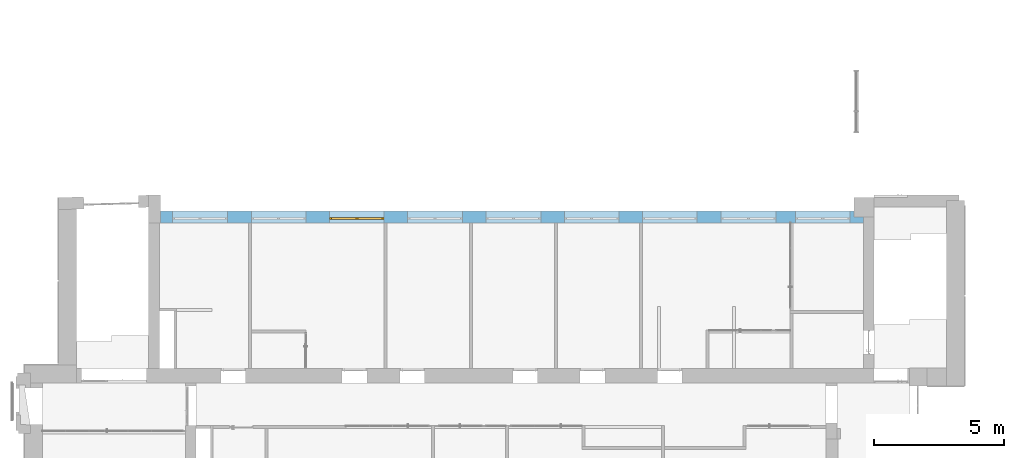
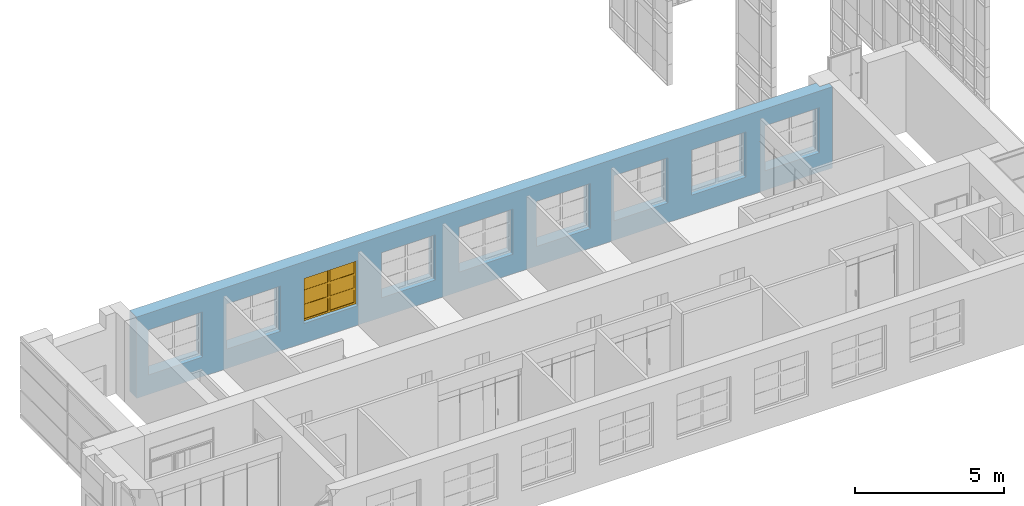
# One storey, part 61 of 73: 1 window, 9 openings, plus 1 element that does not belong to this part.
"""IFC2X3 building model written with IfcOpenShell, lengths in millimetres."""

from ifc_helpers import new_model, entity, si_unit, converted_unit, derived_unit, direction, frame, frame_2d, origin, origin_2d_with_axis, place, context, subcontext, project, spatial, polyline, rectangle, outline, extrude, face_set, surface_model, source, transform, mapped, material, material_list, layer, layer_set, layer_usage, type_object, type_shapes, element, fill, save


model = new_model("IFC2X3")

# Units and contexts
model_context = context("Model", 3, precision=0.01, world=origin(), true_north=direction((6.12303176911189e-17, 1.0)))
body_context = subcontext(model_context, "Body", "Model", "MODEL_VIEW")
ifc_project = project(units=[si_unit("LENGTHUNIT", "METRE", prefix="MILLI"), si_unit("AREAUNIT", "SQUARE_METRE"), si_unit("VOLUMEUNIT", "CUBIC_METRE"), converted_unit("PLANEANGLEUNIT", "DEGREE", entity("IfcRatioMeasure", 0.0174532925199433), si_unit("PLANEANGLEUNIT", "RADIAN"), dimensions=[0, 0, 0, 0, 0, 0, 0]), si_unit("MASSUNIT", "GRAM", prefix="KILO"), derived_unit("MASSDENSITYUNIT", [(si_unit("MASSUNIT", "GRAM", prefix="KILO"), 1), (si_unit("LENGTHUNIT", "METRE"), -3)]), si_unit("TIMEUNIT", "SECOND"), si_unit("FREQUENCYUNIT", "HERTZ"), si_unit("THERMODYNAMICTEMPERATUREUNIT", "DEGREE_CELSIUS"), derived_unit("THERMALTRANSMITTANCEUNIT", [(si_unit("MASSUNIT", "GRAM", prefix="KILO"), 1), (si_unit("THERMODYNAMICTEMPERATUREUNIT", "KELVIN"), -1), (si_unit("TIMEUNIT", "SECOND"), -3)]), derived_unit("VOLUMETRICFLOWRATEUNIT", [(si_unit("LENGTHUNIT", "METRE"), 3), (si_unit("TIMEUNIT", "SECOND"), -1)]), si_unit("ELECTRICCURRENTUNIT", "AMPERE"), si_unit("ELECTRICVOLTAGEUNIT", "VOLT"), si_unit("POWERUNIT", "WATT"), si_unit("FORCEUNIT", "NEWTON", prefix="KILO"), si_unit("ILLUMINANCEUNIT", "LUX"), si_unit("LUMINOUSFLUXUNIT", "LUMEN"), si_unit("LUMINOUSINTENSITYUNIT", "CANDELA"), derived_unit("USERDEFINED", [(si_unit("MASSUNIT", "GRAM", prefix="KILO"), -1), (si_unit("LENGTHUNIT", "METRE"), -2), (si_unit("TIMEUNIT", "SECOND"), 3), (si_unit("LUMINOUSFLUXUNIT", "LUMEN"), 1)]), derived_unit("LINEARVELOCITYUNIT", [(si_unit("LENGTHUNIT", "METRE"), 1), (si_unit("TIMEUNIT", "SECOND"), -1)]), si_unit("PRESSUREUNIT", "PASCAL"), derived_unit("USERDEFINED", [(si_unit("LENGTHUNIT", "METRE"), -2), (si_unit("MASSUNIT", "GRAM", prefix="KILO"), 1), (si_unit("TIMEUNIT", "SECOND"), -2)])], contexts=[model_context])

# Site, building, storey
site_placement = place(None, frame((-151.875543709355, 2715.0, 0.0)))
site = spatial("IfcSite", under=ifc_project, at=site_placement, Name="Surface", CompositionType="ELEMENT")
building_placement = place(site_placement, origin())
building = spatial("IfcBuilding", under=site, at=building_placement, CompositionType="ELEMENT")
storey_placement = place(building_placement, frame((0.0, 0.0, 6730.43000000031)))
storey = spatial("IfcBuildingStorey", under=building, at=storey_placement, Name="3 korrus", CompositionType="ELEMENT", Elevation=6730.43000000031)

# Wall, openings, window
ifc_material_1 = material(Name="Brick, Common")
ifc_layer_1 = layer(ifc_material_1, 440.0)
ifc_material_2 = material(Name="__Kips GN13_tava")
ifc_layer_2 = layer(ifc_material_2, 20.0)
ifc_layer_set = layer_set([ifc_layer_1, ifc_layer_2], Name="Basic Wall:VS-1")
ifc_layer_usage = layer_usage(ifc_layer_set, "AXIS2", "POSITIVE", -230.0)
wall_type = type_object("IfcWallType", Name="Basic Wall:VS-1", PredefinedType="STANDARD", material=ifc_layer_set)
wall_placement = place(storey_placement, frame((31972.6162682, 12380.0, 0.00203353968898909), z_axis=(0.0, 0.0, 1.0), x_axis=(-1.0, 0.0, 0.0)))
wall = element("IfcWallStandardCase", 1, at=wall_placement, inside=storey, type_object=wall_type, material=ifc_layer_usage, Name="SEIN - 005", ObjectType="Basic Wall:VS-1", context=body_context, shape_type="SweptSolid", body=[
    extrude(outline(polyline([(26972.5418693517, -230.0), (26972.5418693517, 230.0), (0.0, 230.0), (0.0, 0.0), (370.0, 0.0), (370.0, -230.0), (26972.5418693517, -230.0)])), origin(), (0.0, 0.0, 1.0), 3329.56796646),
])
opening_1_placement = place(wall_placement, frame((31972.6162682, 12380.0, -0.00203353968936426), z_axis=(0.0, 0.0, 1.0), x_axis=(-1.0, 0.0, 0.0)))
element("IfcOpeningElement", 2, at=opening_1_placement, cuts=wall, Name="SEIN - 005", ObjectType="Opening", context=body_context, shape_type="SweptSolid", body=[
    extrude(rectangle(XDim=1850.0, YDim=2100.0, at=frame_2d((0.0, -5.6843418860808e-13), x_axis=(1.0, 0.0))), frame((6512.84934801, 13077.9, 1725.00203353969), z_axis=(0.0, -1.0, 0.0), x_axis=(0.0, 0.0, 1.0)), (0.0, 0.0, 1.0), 1393.8),
])
opening_2_placement = place(wall_placement, frame((31972.6162682, 12380.0, -0.00203353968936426), z_axis=(0.0, 0.0, 1.0), x_axis=(-1.0, 0.0, 0.0)))
element("IfcOpeningElement", 3, at=opening_2_placement, cuts=wall, Name="SEIN - 005", ObjectType="Opening", context=body_context, shape_type="SweptSolid", body=[
    extrude(rectangle(XDim=1850.0, YDim=2100.0, at=origin_2d_with_axis()), frame((9532.84934801, 13077.9, 1725.00203353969), z_axis=(0.0, -1.0, 0.0), x_axis=(0.0, 0.0, 1.0)), (0.0, 0.0, 1.0), 1393.8),
])
opening_3_placement = place(wall_placement, frame((31972.6162682, 12380.0, -0.00203353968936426), z_axis=(0.0, 0.0, 1.0), x_axis=(-1.0, 0.0, 0.0)))
opening_3 = element("IfcOpeningElement", 4, at=opening_3_placement, cuts=wall, Name="SEIN - 005", ObjectType="Opening", context=body_context, shape_type="SweptSolid", body=[
    extrude(rectangle(XDim=1850.0, YDim=2100.0, at=frame_2d((0.0, -1.02318153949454e-12), x_axis=(1.0, 0.0))), frame((12532.84934801, 13077.9, 1725.00203353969), z_axis=(0.0, -1.0, 0.0), x_axis=(0.0, 0.0, 1.0)), (0.0, 0.0, 1.0), 1393.8),
])
opening_4_placement = place(wall_placement, frame((31972.6162682, 12380.0, -0.00203353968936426), z_axis=(0.0, 0.0, 1.0), x_axis=(-1.0, 0.0, 0.0)))
element("IfcOpeningElement", 5, at=opening_4_placement, cuts=wall, Name="SEIN - 005", ObjectType="Opening", context=body_context, shape_type="SweptSolid", body=[
    extrude(rectangle(XDim=1850.0, YDim=2100.0, at=origin_2d_with_axis()), frame((15532.849348, 13077.9, 1725.00203353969), z_axis=(0.0, -1.0, 0.0), x_axis=(0.0, 0.0, 1.0)), (0.0, 0.0, 1.0), 1393.8),
])
opening_5_placement = place(wall_placement, frame((31972.6162682, 12380.0, -0.00203353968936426), z_axis=(0.0, 0.0, 1.0), x_axis=(-1.0, 0.0, 0.0)))
element("IfcOpeningElement", 6, at=opening_5_placement, cuts=wall, Name="SEIN - 005", ObjectType="Opening", context=body_context, shape_type="SweptSolid", body=[
    extrude(rectangle(XDim=1850.0, YDim=2100.0, at=origin_2d_with_axis()), frame((18542.849348, 13077.9, 1725.00203353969), z_axis=(0.0, -1.0, 0.0), x_axis=(0.0, 0.0, 1.0)), (0.0, 0.0, 1.0), 1393.8),
])
opening_6_placement = place(wall_placement, frame((31972.6162682, 12380.0, -0.00203353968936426), z_axis=(0.0, 0.0, 1.0), x_axis=(-1.0, 0.0, 0.0)))
element("IfcOpeningElement", 7, at=opening_6_placement, cuts=wall, Name="SEIN - 005", ObjectType="Opening", context=body_context, shape_type="SweptSolid", body=[
    extrude(rectangle(XDim=1850.0, YDim=2100.0, at=origin_2d_with_axis()), frame((21543.0530903, 13077.9, 1725.00203353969), z_axis=(0.0, -1.0, 0.0), x_axis=(0.0, 0.0, 1.0)), (0.0, 0.0, 1.0), 1393.8),
])
opening_7_placement = place(wall_placement, frame((31972.6162682, 12380.0, -0.00203353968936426), z_axis=(0.0, 0.0, 1.0), x_axis=(-1.0, 0.0, 0.0)))
element("IfcOpeningElement", 8, at=opening_7_placement, cuts=wall, Name="SEIN - 005", ObjectType="Opening", context=body_context, shape_type="SweptSolid", body=[
    extrude(rectangle(XDim=1850.0, YDim=2100.0, at=origin_2d_with_axis()), frame((24543.0530903, 13077.9, 1725.00203353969), z_axis=(0.0, -1.0, 0.0), x_axis=(0.0, 0.0, 1.0)), (0.0, 0.0, 1.0), 1393.8),
])
opening_8_placement = place(wall_placement, frame((31972.6162682, 12380.0, -0.00203353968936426), z_axis=(0.0, 0.0, 1.0), x_axis=(-1.0, 0.0, 0.0)))
element("IfcOpeningElement", 9, at=opening_8_placement, cuts=wall, Name="SEIN - 005", ObjectType="Opening", context=body_context, shape_type="SweptSolid", body=[
    extrude(rectangle(XDim=1850.0, YDim=2100.0, at=origin_2d_with_axis()), frame((27563.0530903, 13077.9, 1725.00203353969), z_axis=(0.0, -1.0, 0.0), x_axis=(0.0, 0.0, 1.0)), (0.0, 0.0, 1.0), 1393.8),
])
opening_9_placement = place(wall_placement, frame((31972.6162682, 12380.0, -0.00203353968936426), z_axis=(0.0, 0.0, 1.0), x_axis=(-1.0, 0.0, 0.0)))
element("IfcOpeningElement", 10, at=opening_9_placement, cuts=wall, Name="SEIN - 005", ObjectType="Opening", context=body_context, shape_type="SweptSolid", body=[
    extrude(rectangle(XDim=1850.0, YDim=2100.0, at=origin_2d_with_axis()), frame((30412.5729235, 13077.9, 1725.00203353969), z_axis=(0.0, -1.0, 0.0), x_axis=(0.0, 0.0, 1.0)), (0.0, 0.0, 1.0), 1393.8),
])
ifc_material_3 = material(Name="Paint - Titanium White")
ifc_material_4 = material(Name="Paint - Dark Gray")
ifc_material_5 = material(Name="Glass - Clear Fast")
ifc_material_list_1 = material_list([ifc_material_3, ifc_material_4, ifc_material_5])
ifc_material_list_2 = material_list([ifc_material_3, ifc_material_4, ifc_material_5])
window_style = type_object("IfcWindowStyle", Name="Aken_1850x2100", ConstructionType="NOTDEFINED", OperationType="DOUBLE_PANEL_VERTICAL", ParameterTakesPrecedence=False, Sizeable=False, material=ifc_material_list_2)
shared_shape = source(origin(), body_context, "Body", "SurfaceModel", [
    surface_model("IfcFaceBasedSurfaceModel", [(80.0, -665.9, 1770.0), (80.0, -620.9, 1770.0), (0.0, -620.9, 1770.0), (0.0, -665.9, 1770.0), (80.0, -665.9, 80.0), (80.0, -620.9, 80.0), (80.0, -620.9, 1770.0), (80.0, -665.9, 1770.0), (80.0, -620.9, 1770.0), (80.0, -620.9, 80.0), (0.0, -620.9, 80.0), (0.0, -620.9, 1770.0), (0.0, -665.9, 1770.0), (0.0, -620.9, 1770.0), (0.0, -620.9, 80.0), (0.0, -665.9, 80.0), (80.0, -665.9, 1770.0), (0.0, -665.9, 1770.0), (0.0, -665.9, 80.0), (80.0, -665.9, 80.0), (0.0, -665.9, 80.0), (0.0, -620.9, 80.0), (80.0, -620.9, 80.0), (80.0, -665.9, 80.0), (2020.0, -665.9, 80.0), (2020.0, -620.9, 80.0), (2100.0, -620.9, 80.0), (2100.0, -665.9, 80.0), (2020.0, -665.9, 1770.0), (2020.0, -620.9, 1770.0), (2020.0, -620.9, 80.0), (2020.0, -665.9, 80.0), (2020.0, -620.9, 80.0), (2020.0, -620.9, 1770.0), (2100.0, -620.9, 1770.0), (2100.0, -620.9, 80.0), (2100.0, -665.9, 80.0), (2100.0, -620.9, 80.0), (2100.0, -620.9, 1770.0), (2100.0, -665.9, 1770.0), (2020.0, -665.9, 80.0), (2100.0, -665.9, 80.0), (2100.0, -665.9, 1770.0), (2020.0, -665.9, 1770.0), (2100.0, -665.9, 1770.0), (2100.0, -620.9, 1770.0), (2020.0, -620.9, 1770.0), (2020.0, -665.9, 1770.0), (1010.0, -665.9, 80.0), (1010.0, -620.9, 80.0), (1090.0, -620.9, 80.0), (1090.0, -665.9, 80.0), (1010.0, -665.9, 1770.0), (1010.0, -620.9, 1770.0), (1010.0, -620.9, 80.0), (1010.0, -665.9, 80.0), (1010.0, -620.9, 80.0), (1010.0, -620.9, 1770.0), (1090.0, -620.9, 1770.0), (1090.0, -620.9, 80.0), (1090.0, -665.9, 80.0), (1090.0, -620.9, 80.0), (1090.0, -620.9, 1770.0), (1090.0, -665.9, 1770.0), (1010.0, -665.9, 80.0), (1090.0, -665.9, 80.0), (1090.0, -665.9, 1770.0), (1010.0, -665.9, 1770.0), (1090.0, -665.9, 1770.0), (1090.0, -620.9, 1770.0), (1010.0, -620.9, 1770.0), (1010.0, -665.9, 1770.0), (80.0, -665.9, 80.0), (80.0, -620.9, 80.0), (0.0, -620.9, 80.0), (0.0, -665.9, 80.0), (1010.0, -665.9, 80.0), (1010.0, -620.9, 80.0), (80.0, -620.9, 80.0), (80.0, -665.9, 80.0), (80.0, -620.9, 80.0), (1010.0, -620.9, 80.0), (1090.0, -620.9, 80.0), (2020.0, -620.9, 80.0), (2100.0, -620.9, 80.0), (2100.0, -620.9, 0.0), (0.0, -620.9, 0.0), (0.0, -620.9, 80.0), (0.0, -665.9, 80.0), (0.0, -620.9, 80.0), (0.0, -620.9, 0.0), (0.0, -665.9, 0.0), (80.0, -665.9, 80.0), (0.0, -665.9, 80.0), (0.0, -665.9, 0.0), (2100.0, -665.9, 0.0), (2100.0, -665.9, 80.0), (2020.0, -665.9, 80.0), (1090.0, -665.9, 80.0), (1010.0, -665.9, 80.0), (1090.0, -665.9, 80.0), (1090.0, -620.9, 80.0), (1010.0, -620.9, 80.0), (1010.0, -665.9, 80.0), (2020.0, -665.9, 80.0), (2020.0, -620.9, 80.0), (1090.0, -620.9, 80.0), (1090.0, -665.9, 80.0), (2100.0, -665.9, 80.0), (2100.0, -620.9, 80.0), (2020.0, -620.9, 80.0), (2020.0, -665.9, 80.0), (2100.0, -665.9, 0.0), (2100.0, -620.9, 0.0), (2100.0, -620.9, 80.0), (2100.0, -665.9, 80.0), (0.0, -665.9, 0.0), (0.0, -620.9, 0.0), (2100.0, -620.9, 0.0), (2100.0, -665.9, 0.0), (1010.0, -665.9, 1770.0), (1010.0, -620.9, 1770.0), (1090.0, -620.9, 1770.0), (1090.0, -665.9, 1770.0), (80.0, -665.9, 1770.0), (80.0, -620.9, 1770.0), (1010.0, -620.9, 1770.0), (1010.0, -665.9, 1770.0), (1010.0, -620.9, 1770.0), (80.0, -620.9, 1770.0), (0.0, -620.9, 1770.0), (0.0, -620.9, 1850.0), (2100.0, -620.9, 1850.0), (2100.0, -620.9, 1770.0), (2020.0, -620.9, 1770.0), (1090.0, -620.9, 1770.0), (1090.0, -665.9, 1770.0), (1090.0, -620.9, 1770.0), (2020.0, -620.9, 1770.0), (2020.0, -665.9, 1770.0), (1010.0, -665.9, 1770.0), (1090.0, -665.9, 1770.0), (2020.0, -665.9, 1770.0), (2100.0, -665.9, 1770.0), (2100.0, -665.9, 1850.0), (0.0, -665.9, 1850.0), (0.0, -665.9, 1770.0), (80.0, -665.9, 1770.0), (0.0, -665.9, 1770.0), (0.0, -620.9, 1770.0), (80.0, -620.9, 1770.0), (80.0, -665.9, 1770.0), (0.0, -665.9, 1850.0), (0.0, -620.9, 1850.0), (0.0, -620.9, 1770.0), (0.0, -665.9, 1770.0), (2100.0, -665.9, 1850.0), (2100.0, -620.9, 1850.0), (0.0, -620.9, 1850.0), (0.0, -665.9, 1850.0), (2100.0, -665.9, 1770.0), (2100.0, -620.9, 1770.0), (2100.0, -620.9, 1850.0), (2100.0, -665.9, 1850.0), (2020.0, -665.9, 1770.0), (2020.0, -620.9, 1770.0), (2100.0, -620.9, 1770.0), (2100.0, -665.9, 1770.0), (80.0, -640.9, 590.0), (80.0, -630.9, 590.0), (1010.0, -630.9, 590.0), (1010.0, -640.9, 590.0), (80.0, -640.9, 670.0), (80.0, -630.9, 670.0), (80.0, -630.9, 590.0), (80.0, -640.9, 590.0), (80.0, -630.9, 590.0), (80.0, -630.9, 670.0), (1010.0, -630.9, 670.0), (1010.0, -630.9, 590.0), (1010.0, -640.9, 590.0), (1010.0, -630.9, 590.0), (1010.0, -630.9, 670.0), (1010.0, -640.9, 670.0), (80.0, -640.9, 590.0), (1010.0, -640.9, 590.0), (1010.0, -640.9, 670.0), (80.0, -640.9, 670.0), (1010.0, -640.9, 670.0), (1010.0, -630.9, 670.0), (80.0, -630.9, 670.0), (80.0, -640.9, 670.0), (80.0, -640.9, 1180.0), (80.0, -630.9, 1180.0), (1010.0, -630.9, 1180.0), (1010.0, -640.9, 1180.0), (80.0, -640.9, 1260.0), (80.0, -630.9, 1260.0), (80.0, -630.9, 1180.0), (80.0, -640.9, 1180.0), (80.0, -630.9, 1180.0), (80.0, -630.9, 1260.0), (1010.0, -630.9, 1260.0), (1010.0, -630.9, 1180.0), (1010.0, -640.9, 1180.0), (1010.0, -630.9, 1180.0), (1010.0, -630.9, 1260.0), (1010.0, -640.9, 1260.0), (80.0, -640.9, 1180.0), (1010.0, -640.9, 1180.0), (1010.0, -640.9, 1260.0), (80.0, -640.9, 1260.0), (1010.0, -640.9, 1260.0), (1010.0, -630.9, 1260.0), (80.0, -630.9, 1260.0), (80.0, -640.9, 1260.0), (1090.0, -640.9, 590.0), (1090.0, -630.9, 590.0), (2020.0, -630.9, 590.0), (2020.0, -640.9, 590.0), (1090.0, -640.9, 670.0), (1090.0, -630.9, 670.0), (1090.0, -630.9, 590.0), (1090.0, -640.9, 590.0), (1090.0, -630.9, 590.0), (1090.0, -630.9, 670.0), (2020.0, -630.9, 670.0), (2020.0, -630.9, 590.0), (2020.0, -640.9, 590.0), (2020.0, -630.9, 590.0), (2020.0, -630.9, 670.0), (2020.0, -640.9, 670.0), (1090.0, -640.9, 590.0), (2020.0, -640.9, 590.0), (2020.0, -640.9, 670.0), (1090.0, -640.9, 670.0), (2020.0, -640.9, 670.0), (2020.0, -630.9, 670.0), (1090.0, -630.9, 670.0), (1090.0, -640.9, 670.0), (1090.0, -640.9, 1180.0), (1090.0, -630.9, 1180.0), (2020.0, -630.9, 1180.0), (2020.0, -640.9, 1180.0), (1090.0, -640.9, 1260.0), (1090.0, -630.9, 1260.0), (1090.0, -630.9, 1180.0), (1090.0, -640.9, 1180.0), (1090.0, -630.9, 1180.0), (1090.0, -630.9, 1260.0), (2020.0, -630.9, 1260.0), (2020.0, -630.9, 1180.0), (2020.0, -640.9, 1180.0), (2020.0, -630.9, 1180.0), (2020.0, -630.9, 1260.0), (2020.0, -640.9, 1260.0), (1090.0, -640.9, 1180.0), (2020.0, -640.9, 1180.0), (2020.0, -640.9, 1260.0), (1090.0, -640.9, 1260.0), (2020.0, -640.9, 1260.0), (2020.0, -630.9, 1260.0), (1090.0, -630.9, 1260.0), (1090.0, -640.9, 1260.0)], [face_set([[[0, 1, 2, 3]]]), face_set([[[4, 5, 6, 7]]]), face_set([[[8, 9, 10, 11]]]), face_set([[[12, 13, 14, 15]]]), face_set([[[16, 17, 18, 19]]]), face_set([[[20, 21, 22, 23]]]), face_set([[[24, 25, 26, 27]]]), face_set([[[28, 29, 30, 31]]]), face_set([[[32, 33, 34, 35]]]), face_set([[[36, 37, 38, 39]]]), face_set([[[40, 41, 42, 43]]]), face_set([[[44, 45, 46, 47]]]), face_set([[[48, 49, 50, 51]]]), face_set([[[52, 53, 54, 55]]]), face_set([[[56, 57, 58, 59]]]), face_set([[[60, 61, 62, 63]]]), face_set([[[64, 65, 66, 67]]]), face_set([[[68, 69, 70, 71]]]), face_set([[[72, 73, 74, 75]]]), face_set([[[76, 77, 78, 79]]]), face_set([[[80, 81, 82, 83, 84, 85, 86, 87]]]), face_set([[[88, 89, 90, 91]]]), face_set([[[92, 93, 94, 95, 96, 97, 98, 99]]]), face_set([[[100, 101, 102, 103]]]), face_set([[[104, 105, 106, 107]]]), face_set([[[108, 109, 110, 111]]]), face_set([[[112, 113, 114, 115]]]), face_set([[[116, 117, 118, 119]]]), face_set([[[120, 121, 122, 123]]]), face_set([[[124, 125, 126, 127]]]), face_set([[[128, 129, 130, 131, 132, 133, 134, 135]]]), face_set([[[136, 137, 138, 139]]]), face_set([[[140, 141, 142, 143, 144, 145, 146, 147]]]), face_set([[[148, 149, 150, 151]]]), face_set([[[152, 153, 154, 155]]]), face_set([[[156, 157, 158, 159]]]), face_set([[[160, 161, 162, 163]]]), face_set([[[164, 165, 166, 167]]]), face_set([[[168, 169, 170, 171]]]), face_set([[[172, 173, 174, 175]]]), face_set([[[176, 177, 178, 179]]]), face_set([[[180, 181, 182, 183]]]), face_set([[[184, 185, 186, 187]]]), face_set([[[188, 189, 190, 191]]]), face_set([[[192, 193, 194, 195]]]), face_set([[[196, 197, 198, 199]]]), face_set([[[200, 201, 202, 203]]]), face_set([[[204, 205, 206, 207]]]), face_set([[[208, 209, 210, 211]]]), face_set([[[212, 213, 214, 215]]]), face_set([[[216, 217, 218, 219]]]), face_set([[[220, 221, 222, 223]]]), face_set([[[224, 225, 226, 227]]]), face_set([[[228, 229, 230, 231]]]), face_set([[[232, 233, 234, 235]]]), face_set([[[236, 237, 238, 239]]]), face_set([[[240, 241, 242, 243]]]), face_set([[[244, 245, 246, 247]]]), face_set([[[248, 249, 250, 251]]]), face_set([[[252, 253, 254, 255]]]), face_set([[[256, 257, 258, 259]]]), face_set([[[260, 261, 262, 263]]])]),
    surface_model("IfcFaceBasedSurfaceModel", [(80.0, -620.9, 1770.0), (80.0, -595.9, 1770.0), (0.0, -595.9, 1770.0), (0.0, -620.9, 1770.0), (80.0, -620.9, 80.0), (80.0, -595.9, 80.0), (80.0, -595.9, 1770.0), (80.0, -620.9, 1770.0), (80.0, -595.9, 1770.0), (80.0, -595.9, 80.0), (0.0, -595.9, 80.0), (0.0, -595.9, 1770.0), (0.0, -620.9, 1770.0), (0.0, -595.9, 1770.0), (0.0, -595.9, 80.0), (0.0, -620.9, 80.0), (80.0, -620.9, 1770.0), (0.0, -620.9, 1770.0), (0.0, -620.9, 80.0), (80.0, -620.9, 80.0), (0.0, -620.9, 80.0), (0.0, -595.9, 80.0), (80.0, -595.9, 80.0), (80.0, -620.9, 80.0), (2020.0, -620.9, 80.0), (2020.0, -595.9, 80.0), (2100.0, -595.9, 80.0), (2100.0, -620.9, 80.0), (2020.0, -620.9, 1770.0), (2020.0, -595.9, 1770.0), (2020.0, -595.9, 80.0), (2020.0, -620.9, 80.0), (2020.0, -595.9, 80.0), (2020.0, -595.9, 1770.0), (2100.0, -595.9, 1770.0), (2100.0, -595.9, 80.0), (2100.0, -620.9, 80.0), (2100.0, -595.9, 80.0), (2100.0, -595.9, 1770.0), (2100.0, -620.9, 1770.0), (2020.0, -620.9, 80.0), (2100.0, -620.9, 80.0), (2100.0, -620.9, 1770.0), (2020.0, -620.9, 1770.0), (2100.0, -620.9, 1770.0), (2100.0, -595.9, 1770.0), (2020.0, -595.9, 1770.0), (2020.0, -620.9, 1770.0), (1010.0, -620.9, 80.0), (1010.0, -595.9, 80.0), (1090.0, -595.9, 80.0), (1090.0, -620.9, 80.0), (1010.0, -620.9, 1770.0), (1010.0, -595.9, 1770.0), (1010.0, -595.9, 80.0), (1010.0, -620.9, 80.0), (1010.0, -595.9, 80.0), (1010.0, -595.9, 1770.0), (1090.0, -595.9, 1770.0), (1090.0, -595.9, 80.0), (1090.0, -620.9, 80.0), (1090.0, -595.9, 80.0), (1090.0, -595.9, 1770.0), (1090.0, -620.9, 1770.0), (1010.0, -620.9, 80.0), (1090.0, -620.9, 80.0), (1090.0, -620.9, 1770.0), (1010.0, -620.9, 1770.0), (1090.0, -620.9, 1770.0), (1090.0, -595.9, 1770.0), (1010.0, -595.9, 1770.0), (1010.0, -620.9, 1770.0), (80.0, -620.9, 80.0), (80.0, -595.9, 80.0), (0.0, -595.9, 80.0), (0.0, -620.9, 80.0), (1010.0, -620.9, 80.0), (1010.0, -595.9, 80.0), (80.0, -595.9, 80.0), (80.0, -620.9, 80.0), (80.0, -595.9, 80.0), (1010.0, -595.9, 80.0), (1090.0, -595.9, 80.0), (2020.0, -595.9, 80.0), (2100.0, -595.9, 80.0), (2100.0, -595.9, 0.0), (0.0, -595.9, 0.0), (0.0, -595.9, 80.0), (0.0, -620.9, 80.0), (0.0, -595.9, 80.0), (0.0, -595.9, 0.0), (0.0, -620.9, 0.0), (80.0, -620.9, 80.0), (0.0, -620.9, 80.0), (0.0, -620.9, 0.0), (2100.0, -620.9, 0.0), (2100.0, -620.9, 80.0), (2020.0, -620.9, 80.0), (1090.0, -620.9, 80.0), (1010.0, -620.9, 80.0), (1090.0, -620.9, 80.0), (1090.0, -595.9, 80.0), (1010.0, -595.9, 80.0), (1010.0, -620.9, 80.0), (2020.0, -620.9, 80.0), (2020.0, -595.9, 80.0), (1090.0, -595.9, 80.0), (1090.0, -620.9, 80.0), (2100.0, -620.9, 80.0), (2100.0, -595.9, 80.0), (2020.0, -595.9, 80.0), (2020.0, -620.9, 80.0), (2100.0, -620.9, 0.0), (2100.0, -595.9, 0.0), (2100.0, -595.9, 80.0), (2100.0, -620.9, 80.0), (0.0, -620.9, 0.0), (0.0, -595.9, 0.0), (2100.0, -595.9, 0.0), (2100.0, -620.9, 0.0), (1010.0, -620.9, 1770.0), (1010.0, -595.9, 1770.0), (1090.0, -595.9, 1770.0), (1090.0, -620.9, 1770.0), (80.0, -620.9, 1770.0), (80.0, -595.9, 1770.0), (1010.0, -595.9, 1770.0), (1010.0, -620.9, 1770.0), (1010.0, -595.9, 1770.0), (80.0, -595.9, 1770.0), (0.0, -595.9, 1770.0), (0.0, -595.9, 1850.0), (2100.0, -595.9, 1850.0), (2100.0, -595.9, 1770.0), (2020.0, -595.9, 1770.0), (1090.0, -595.9, 1770.0), (1090.0, -620.9, 1770.0), (1090.0, -595.9, 1770.0), (2020.0, -595.9, 1770.0), (2020.0, -620.9, 1770.0), (1010.0, -620.9, 1770.0), (1090.0, -620.9, 1770.0), (2020.0, -620.9, 1770.0), (2100.0, -620.9, 1770.0), (2100.0, -620.9, 1850.0), (0.0, -620.9, 1850.0), (0.0, -620.9, 1770.0), (80.0, -620.9, 1770.0), (0.0, -620.9, 1770.0), (0.0, -595.9, 1770.0), (80.0, -595.9, 1770.0), (80.0, -620.9, 1770.0), (0.0, -620.9, 1850.0), (0.0, -595.9, 1850.0), (0.0, -595.9, 1770.0), (0.0, -620.9, 1770.0), (2100.0, -620.9, 1850.0), (2100.0, -595.9, 1850.0), (0.0, -595.9, 1850.0), (0.0, -620.9, 1850.0), (2100.0, -620.9, 1770.0), (2100.0, -595.9, 1770.0), (2100.0, -595.9, 1850.0), (2100.0, -620.9, 1850.0), (2020.0, -620.9, 1770.0), (2020.0, -595.9, 1770.0), (2100.0, -595.9, 1770.0), (2100.0, -620.9, 1770.0), (80.0, -630.9, 590.0), (80.0, -600.9, 590.0), (1010.0, -600.9, 590.0), (1010.0, -630.9, 590.0), (80.0, -630.9, 670.0), (80.0, -600.9, 670.0), (80.0, -600.9, 590.0), (80.0, -630.9, 590.0), (80.0, -600.9, 590.0), (80.0, -600.9, 670.0), (1010.0, -600.9, 670.0), (1010.0, -600.9, 590.0), (1010.0, -630.9, 590.0), (1010.0, -600.9, 590.0), (1010.0, -600.9, 670.0), (1010.0, -630.9, 670.0), (80.0, -630.9, 590.0), (1010.0, -630.9, 590.0), (1010.0, -630.9, 670.0), (80.0, -630.9, 670.0), (1010.0, -630.9, 670.0), (1010.0, -600.9, 670.0), (80.0, -600.9, 670.0), (80.0, -630.9, 670.0), (80.0, -630.9, 1180.0), (80.0, -600.9, 1180.0), (1010.0, -600.9, 1180.0), (1010.0, -630.9, 1180.0), (80.0, -630.9, 1260.0), (80.0, -600.9, 1260.0), (80.0, -600.9, 1180.0), (80.0, -630.9, 1180.0), (80.0, -600.9, 1180.0), (80.0, -600.9, 1260.0), (1010.0, -600.9, 1260.0), (1010.0, -600.9, 1180.0), (1010.0, -630.9, 1180.0), (1010.0, -600.9, 1180.0), (1010.0, -600.9, 1260.0), (1010.0, -630.9, 1260.0), (80.0, -630.9, 1180.0), (1010.0, -630.9, 1180.0), (1010.0, -630.9, 1260.0), (80.0, -630.9, 1260.0), (1010.0, -630.9, 1260.0), (1010.0, -600.9, 1260.0), (80.0, -600.9, 1260.0), (80.0, -630.9, 1260.0), (1090.0, -630.9, 590.0), (1090.0, -600.9, 590.0), (2020.0, -600.9, 590.0), (2020.0, -630.9, 590.0), (1090.0, -630.9, 670.0), (1090.0, -600.9, 670.0), (1090.0, -600.9, 590.0), (1090.0, -630.9, 590.0), (1090.0, -600.9, 590.0), (1090.0, -600.9, 670.0), (2020.0, -600.9, 670.0), (2020.0, -600.9, 590.0), (2020.0, -630.9, 590.0), (2020.0, -600.9, 590.0), (2020.0, -600.9, 670.0), (2020.0, -630.9, 670.0), (1090.0, -630.9, 590.0), (2020.0, -630.9, 590.0), (2020.0, -630.9, 670.0), (1090.0, -630.9, 670.0), (2020.0, -630.9, 670.0), (2020.0, -600.9, 670.0), (1090.0, -600.9, 670.0), (1090.0, -630.9, 670.0), (1090.0, -630.9, 1180.0), (1090.0, -600.9, 1180.0), (2020.0, -600.9, 1180.0), (2020.0, -630.9, 1180.0), (1090.0, -630.9, 1260.0), (1090.0, -600.9, 1260.0), (1090.0, -600.9, 1180.0), (1090.0, -630.9, 1180.0), (1090.0, -600.9, 1180.0), (1090.0, -600.9, 1260.0), (2020.0, -600.9, 1260.0), (2020.0, -600.9, 1180.0), (2020.0, -630.9, 1180.0), (2020.0, -600.9, 1180.0), (2020.0, -600.9, 1260.0), (2020.0, -630.9, 1260.0), (1090.0, -630.9, 1180.0), (2020.0, -630.9, 1180.0), (2020.0, -630.9, 1260.0), (1090.0, -630.9, 1260.0), (2020.0, -630.9, 1260.0), (2020.0, -600.9, 1260.0), (1090.0, -600.9, 1260.0), (1090.0, -630.9, 1260.0)], [face_set([[[0, 1, 2, 3]]]), face_set([[[4, 5, 6, 7]]]), face_set([[[8, 9, 10, 11]]]), face_set([[[12, 13, 14, 15]]]), face_set([[[16, 17, 18, 19]]]), face_set([[[20, 21, 22, 23]]]), face_set([[[24, 25, 26, 27]]]), face_set([[[28, 29, 30, 31]]]), face_set([[[32, 33, 34, 35]]]), face_set([[[36, 37, 38, 39]]]), face_set([[[40, 41, 42, 43]]]), face_set([[[44, 45, 46, 47]]]), face_set([[[48, 49, 50, 51]]]), face_set([[[52, 53, 54, 55]]]), face_set([[[56, 57, 58, 59]]]), face_set([[[60, 61, 62, 63]]]), face_set([[[64, 65, 66, 67]]]), face_set([[[68, 69, 70, 71]]]), face_set([[[72, 73, 74, 75]]]), face_set([[[76, 77, 78, 79]]]), face_set([[[80, 81, 82, 83, 84, 85, 86, 87]]]), face_set([[[88, 89, 90, 91]]]), face_set([[[92, 93, 94, 95, 96, 97, 98, 99]]]), face_set([[[100, 101, 102, 103]]]), face_set([[[104, 105, 106, 107]]]), face_set([[[108, 109, 110, 111]]]), face_set([[[112, 113, 114, 115]]]), face_set([[[116, 117, 118, 119]]]), face_set([[[120, 121, 122, 123]]]), face_set([[[124, 125, 126, 127]]]), face_set([[[128, 129, 130, 131, 132, 133, 134, 135]]]), face_set([[[136, 137, 138, 139]]]), face_set([[[140, 141, 142, 143, 144, 145, 146, 147]]]), face_set([[[148, 149, 150, 151]]]), face_set([[[152, 153, 154, 155]]]), face_set([[[156, 157, 158, 159]]]), face_set([[[160, 161, 162, 163]]]), face_set([[[164, 165, 166, 167]]]), face_set([[[168, 169, 170, 171]]]), face_set([[[172, 173, 174, 175]]]), face_set([[[176, 177, 178, 179]]]), face_set([[[180, 181, 182, 183]]]), face_set([[[184, 185, 186, 187]]]), face_set([[[188, 189, 190, 191]]]), face_set([[[192, 193, 194, 195]]]), face_set([[[196, 197, 198, 199]]]), face_set([[[200, 201, 202, 203]]]), face_set([[[204, 205, 206, 207]]]), face_set([[[208, 209, 210, 211]]]), face_set([[[212, 213, 214, 215]]]), face_set([[[216, 217, 218, 219]]]), face_set([[[220, 221, 222, 223]]]), face_set([[[224, 225, 226, 227]]]), face_set([[[228, 229, 230, 231]]]), face_set([[[232, 233, 234, 235]]]), face_set([[[236, 237, 238, 239]]]), face_set([[[240, 241, 242, 243]]]), face_set([[[244, 245, 246, 247]]]), face_set([[[248, 249, 250, 251]]]), face_set([[[252, 253, 254, 255]]]), face_set([[[256, 257, 258, 259]]]), face_set([[[260, 261, 262, 263]]])]),
    surface_model("IfcFaceBasedSurfaceModel", [(1010.0, -630.9, 80.0), (1010.0, -630.9, 590.0), (80.0, -630.9, 590.0), (80.0, -630.9, 80.0), (1010.0, -610.9, 80.0), (80.0, -610.9, 80.0), (80.0, -610.9, 590.0), (1010.0, -610.9, 590.0), (1010.0, -630.9, 670.0), (1010.0, -630.9, 1180.0), (80.0, -630.9, 1180.0), (80.0, -630.9, 670.0), (1010.0, -610.9, 670.0), (80.0, -610.9, 670.0), (80.0, -610.9, 1180.0), (1010.0, -610.9, 1180.0), (1010.0, -630.9, 1260.0), (1010.0, -630.9, 1770.0), (80.0, -630.9, 1770.0), (80.0, -630.9, 1260.0), (1010.0, -610.9, 1260.0), (80.0, -610.9, 1260.0), (80.0, -610.9, 1770.0), (1010.0, -610.9, 1770.0), (2020.0, -630.9, 80.0), (2020.0, -630.9, 590.0), (1090.0, -630.9, 590.0), (1090.0, -630.9, 80.0), (2020.0, -610.9, 80.0), (1090.0, -610.9, 80.0), (1090.0, -610.9, 590.0), (2020.0, -610.9, 590.0), (2020.0, -630.9, 670.0), (2020.0, -630.9, 1180.0), (1090.0, -630.9, 1180.0), (1090.0, -630.9, 670.0), (2020.0, -610.9, 670.0), (1090.0, -610.9, 670.0), (1090.0, -610.9, 1180.0), (2020.0, -610.9, 1180.0), (2020.0, -630.9, 1260.0), (2020.0, -630.9, 1770.0), (1090.0, -630.9, 1770.0), (1090.0, -630.9, 1260.0), (2020.0, -610.9, 1260.0), (1090.0, -610.9, 1260.0), (1090.0, -610.9, 1770.0), (2020.0, -610.9, 1770.0)], [face_set([[[0, 1, 2, 3]]]), face_set([[[4, 5, 6, 7]]]), face_set([[[8, 9, 10, 11]]]), face_set([[[12, 13, 14, 15]]]), face_set([[[16, 17, 18, 19]]]), face_set([[[20, 21, 22, 23]]]), face_set([[[24, 25, 26, 27]]]), face_set([[[28, 29, 30, 31]]]), face_set([[[32, 33, 34, 35]]]), face_set([[[36, 37, 38, 39]]]), face_set([[[40, 41, 42, 43]]]), face_set([[[44, 45, 46, 47]]])]),
])
type_shapes(window_style, [shared_shape])
window_placement = place(opening_3_placement, frame((13582.84934801, 11684.1, 800.002033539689), z_axis=(0.0, 0.0, 1.0), x_axis=(-1.0, 0.0, 0.0)))
window = element("IfcWindow", 11, at=window_placement, inside=storey, type_object=window_style, material=ifc_material_list_1, Name="Aken_1850x2100:Aken_1850x2100", ObjectType="Aken_1850x2100", OverallHeight=2100.0, OverallWidth=1850.0, context=body_context, shape_type="MappedRepresentation", body=[
    mapped(shared_shape, transform((0.0, 0.0, 0.0), scale=1.0)),
])
fill(opening_3, window)

save(model, "model.ifc")
